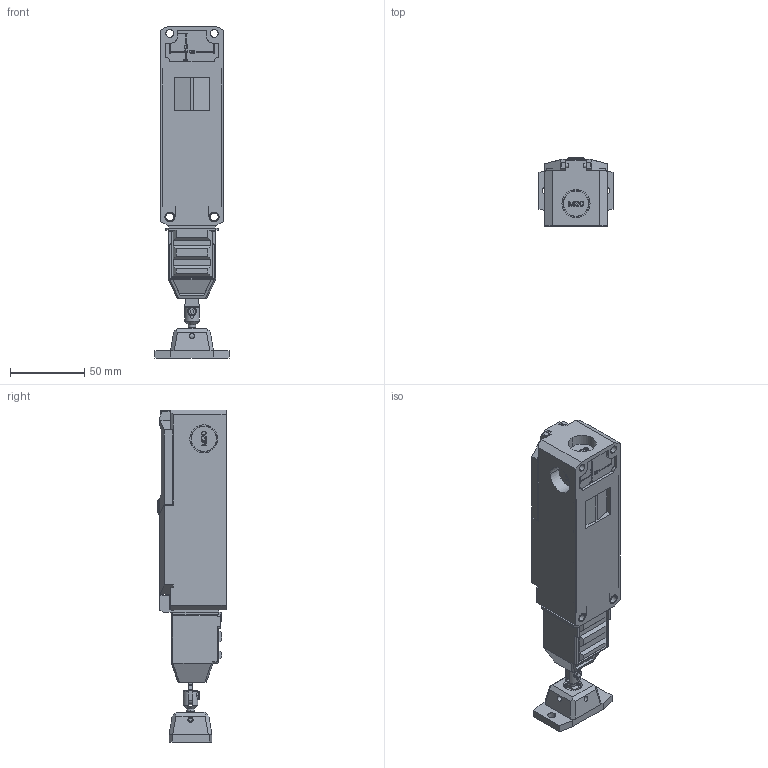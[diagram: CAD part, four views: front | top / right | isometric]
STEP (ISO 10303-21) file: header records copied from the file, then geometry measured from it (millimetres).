
FILE_DESCRIPTION((''),'2;1');
FILE_NAME('2015398_ASM','2014-03-24T',('lwegerer'),(''),'PRO/ENGINEER BY PARAMETRIC TECHNOLOGY CORPORATION, 2011040','PRO/ENGINEER BY PARAMETRIC TECHNOLOGY CORPORATION, 2011040','');
FILE_SCHEMA(('AUTOMOTIVE_DESIGN_CC2 { 1 2 10303 214 -1 1 5 2 }'));
Products named in the file (4): 2015385; 2015386; 2015389; 2015398_ASM
Assembly tree (3 placements, depth 2):
  2015398_ASM
    2015385
    2015386
    2015389
Bounding box: 50 x 46 x 224.3 mm (x, y, z)
Volume: 139899.4 mm3; surface area: 105160.8 mm2
Topology: 5 solids, 8 shells, 2490 faces, 6967 edges, 4506 vertices
Faces by surface type: plane 1806, cylinder 484, cone 79, torus 65, sphere 29, bspline 23, extrusion 4
Entity records: 119201 total; most frequent: CARTESIAN_POINT 17885, ORIENTED_EDGE 13844, DIRECTION 12936, PRESENTATION_STYLE_ASSIGNMENT 9110, STYLED_ITEM 6946, CURVE_STYLE 6941, EDGE_CURVE 6922, VECTOR 5414
